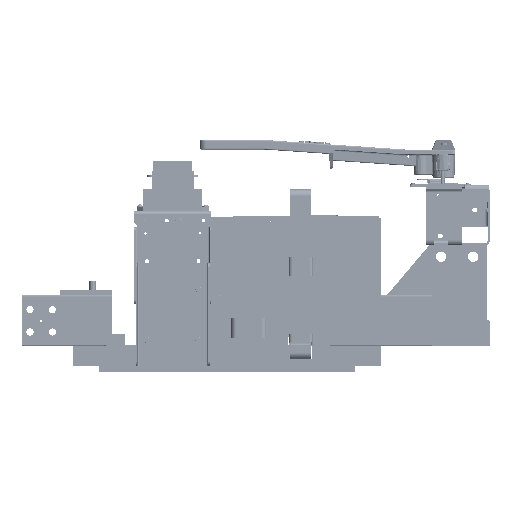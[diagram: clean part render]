
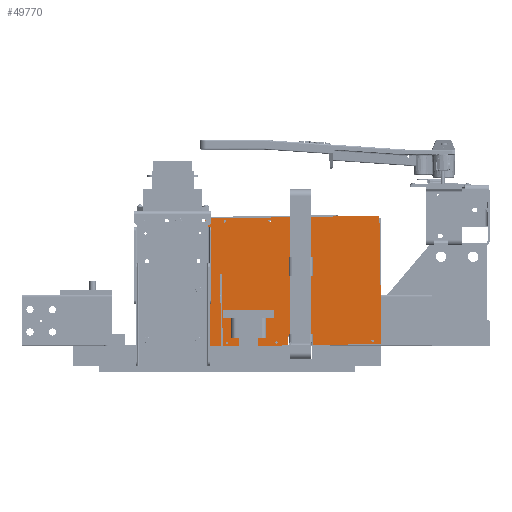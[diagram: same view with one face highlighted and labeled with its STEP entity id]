
A CAD part, left-side view. The second image highlights one B-rep face of the part: STEP entity #49770.
In plain terms, the highlighted planar face has unit normal (-1, 0, 0) as drawn and (0, 0, 1) by its records, which use the part's own axes.
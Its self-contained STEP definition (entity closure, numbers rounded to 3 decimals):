
#2412=FACE_BOUND('',#11273,.T.);
#2413=FACE_BOUND('',#11274,.T.);
#2414=FACE_BOUND('',#11275,.T.);
#2415=FACE_BOUND('',#11276,.T.);
#2416=FACE_BOUND('',#11277,.T.);
#4329=CIRCLE('',#55185,0.097);
#4331=CIRCLE('',#55188,0.097);
#4333=CIRCLE('',#55191,0.097);
#4335=CIRCLE('',#55194,0.097);
#4337=CIRCLE('',#55197,0.097);
#7775=FACE_OUTER_BOUND('',#11272,.T.);
#11272=EDGE_LOOP('',(#42135,#42136,#42137,#42138,#42139,#42140,#42141,#42142,
#42143,#42144,#42145,#42146));
#11273=EDGE_LOOP('',(#42147));
#11274=EDGE_LOOP('',(#42148));
#11275=EDGE_LOOP('',(#42149));
#11276=EDGE_LOOP('',(#42150));
#11277=EDGE_LOOP('',(#42151));
#15374=LINE('',#83466,#19571);
#15377=LINE('',#83472,#19574);
#15380=LINE('',#83478,#19577);
#15383=LINE('',#83484,#19580);
#15386=LINE('',#83490,#19583);
#15389=LINE('',#83496,#19586);
#15392=LINE('',#83502,#19589);
#15395=LINE('',#83508,#19592);
#15398=LINE('',#83514,#19595);
#15401=LINE('',#83520,#19598);
#15404=LINE('',#83526,#19601);
#15407=LINE('',#83530,#19604);
#19571=VECTOR('',#66868,0.394);
#19574=VECTOR('',#66873,0.394);
#19577=VECTOR('',#66878,0.394);
#19580=VECTOR('',#66883,0.394);
#19583=VECTOR('',#66888,0.394);
#19586=VECTOR('',#66893,0.394);
#19589=VECTOR('',#66898,0.394);
#19592=VECTOR('',#66903,0.394);
#19595=VECTOR('',#66908,0.394);
#19598=VECTOR('',#66913,0.394);
#19601=VECTOR('',#66918,0.394);
#19604=VECTOR('',#66923,0.394);
#23864=VERTEX_POINT('',#83432);
#23866=VERTEX_POINT('',#83438);
#23868=VERTEX_POINT('',#83444);
#23870=VERTEX_POINT('',#83450);
#23872=VERTEX_POINT('',#83456);
#23875=VERTEX_POINT('',#83463);
#23876=VERTEX_POINT('',#83465);
#23878=VERTEX_POINT('',#83471);
#23880=VERTEX_POINT('',#83477);
#23882=VERTEX_POINT('',#83483);
#23884=VERTEX_POINT('',#83489);
#23886=VERTEX_POINT('',#83495);
#23888=VERTEX_POINT('',#83501);
#23890=VERTEX_POINT('',#83507);
#23892=VERTEX_POINT('',#83513);
#23894=VERTEX_POINT('',#83519);
#23896=VERTEX_POINT('',#83525);
#30147=EDGE_CURVE('',#23864,#23864,#4329,.T.);
#30150=EDGE_CURVE('',#23866,#23866,#4331,.T.);
#30153=EDGE_CURVE('',#23868,#23868,#4333,.T.);
#30156=EDGE_CURVE('',#23870,#23870,#4335,.T.);
#30159=EDGE_CURVE('',#23872,#23872,#4337,.T.);
#30162=EDGE_CURVE('',#23876,#23875,#15374,.T.);
#30165=EDGE_CURVE('',#23878,#23876,#15377,.T.);
#30168=EDGE_CURVE('',#23880,#23878,#15380,.T.);
#30171=EDGE_CURVE('',#23882,#23880,#15383,.T.);
#30174=EDGE_CURVE('',#23884,#23882,#15386,.T.);
#30177=EDGE_CURVE('',#23886,#23884,#15389,.T.);
#30180=EDGE_CURVE('',#23888,#23886,#15392,.T.);
#30183=EDGE_CURVE('',#23890,#23888,#15395,.T.);
#30186=EDGE_CURVE('',#23892,#23890,#15398,.T.);
#30189=EDGE_CURVE('',#23894,#23892,#15401,.T.);
#30192=EDGE_CURVE('',#23896,#23894,#15404,.T.);
#30195=EDGE_CURVE('',#23875,#23896,#15407,.T.);
#42135=ORIENTED_EDGE('',*,*,#30195,.T.);
#42136=ORIENTED_EDGE('',*,*,#30192,.T.);
#42137=ORIENTED_EDGE('',*,*,#30189,.T.);
#42138=ORIENTED_EDGE('',*,*,#30186,.T.);
#42139=ORIENTED_EDGE('',*,*,#30183,.T.);
#42140=ORIENTED_EDGE('',*,*,#30180,.T.);
#42141=ORIENTED_EDGE('',*,*,#30177,.T.);
#42142=ORIENTED_EDGE('',*,*,#30174,.T.);
#42143=ORIENTED_EDGE('',*,*,#30171,.T.);
#42144=ORIENTED_EDGE('',*,*,#30168,.T.);
#42145=ORIENTED_EDGE('',*,*,#30165,.T.);
#42146=ORIENTED_EDGE('',*,*,#30162,.T.);
#42147=ORIENTED_EDGE('',*,*,#30147,.T.);
#42148=ORIENTED_EDGE('',*,*,#30150,.T.);
#42149=ORIENTED_EDGE('',*,*,#30153,.T.);
#42150=ORIENTED_EDGE('',*,*,#30156,.T.);
#42151=ORIENTED_EDGE('',*,*,#30159,.T.);
#47425=PLANE('',#55210);
#49770=ADVANCED_FACE('',(#7775,#2412,#2413,#2414,#2415,#2416),#47425,.T.);
#55185=AXIS2_PLACEMENT_3D('',#83434,#66834,#66835);
#55188=AXIS2_PLACEMENT_3D('',#83440,#66841,#66842);
#55191=AXIS2_PLACEMENT_3D('',#83446,#66848,#66849);
#55194=AXIS2_PLACEMENT_3D('',#83452,#66855,#66856);
#55197=AXIS2_PLACEMENT_3D('',#83458,#66862,#66863);
#55210=AXIS2_PLACEMENT_3D('',#83531,#66924,#66925);
#66834=DIRECTION('center_axis',(0.,0.,-1.));
#66835=DIRECTION('ref_axis',(-1.,0.,0.));
#66841=DIRECTION('center_axis',(0.,0.,-1.));
#66842=DIRECTION('ref_axis',(-1.,0.,0.));
#66848=DIRECTION('center_axis',(0.,0.,-1.));
#66849=DIRECTION('ref_axis',(-1.,0.,0.));
#66855=DIRECTION('center_axis',(0.,0.,-1.));
#66856=DIRECTION('ref_axis',(-1.,0.,0.));
#66862=DIRECTION('center_axis',(0.,0.,-1.));
#66863=DIRECTION('ref_axis',(-1.,0.,0.));
#66868=DIRECTION('',(1.,0.,0.));
#66873=DIRECTION('',(0.,-1.,0.));
#66878=DIRECTION('',(-1.,0.,0.));
#66883=DIRECTION('',(0.,1.,0.));
#66888=DIRECTION('',(1.,0.,0.));
#66893=DIRECTION('',(0.,-1.,0.));
#66898=DIRECTION('',(-1.,0.,0.));
#66903=DIRECTION('',(0.,-1.,0.));
#66908=DIRECTION('',(1.,0.,0.));
#66913=DIRECTION('',(0.,-1.,0.));
#66918=DIRECTION('',(-1.,0.,0.));
#66923=DIRECTION('',(0.,-1.,0.));
#66924=DIRECTION('center_axis',(0.,0.,1.));
#66925=DIRECTION('ref_axis',(1.,0.,0.));
#83432=CARTESIAN_POINT('',(0.347,12.063,0.125));
#83434=CARTESIAN_POINT('Origin',(0.25,12.063,0.125));
#83438=CARTESIAN_POINT('',(0.347,8.187,0.125));
#83440=CARTESIAN_POINT('Origin',(0.25,8.187,0.125));
#83444=CARTESIAN_POINT('',(0.347,0.688,0.125));
#83446=CARTESIAN_POINT('Origin',(0.25,0.688,0.125));
#83450=CARTESIAN_POINT('',(9.847,12.062,0.125));
#83452=CARTESIAN_POINT('Origin',(9.75,12.062,0.125));
#83456=CARTESIAN_POINT('',(9.847,8.562,0.125));
#83458=CARTESIAN_POINT('Origin',(9.75,8.562,0.125));
#83463=CARTESIAN_POINT('',(5.688,12.5,0.125));
#83465=CARTESIAN_POINT('',(0.,12.5,0.125));
#83466=CARTESIAN_POINT('',(0.,12.5,0.125));
#83471=CARTESIAN_POINT('',(0.,13.625,0.125));
#83472=CARTESIAN_POINT('',(0.,13.625,0.125));
#83477=CARTESIAN_POINT('',(10.,13.625,0.125));
#83478=CARTESIAN_POINT('',(10.,13.625,0.125));
#83483=CARTESIAN_POINT('',(10.,0.,0.125));
#83484=CARTESIAN_POINT('',(10.,0.,0.125));
#83489=CARTESIAN_POINT('',(0.,0.,0.125));
#83490=CARTESIAN_POINT('',(0.,0.,0.125));
#83495=CARTESIAN_POINT('',(0.,5.312,0.125));
#83496=CARTESIAN_POINT('',(0.,5.312,0.125));
#83501=CARTESIAN_POINT('',(0.75,5.312,0.125));
#83502=CARTESIAN_POINT('',(0.75,5.312,0.125));
#83507=CARTESIAN_POINT('',(0.75,7.25,0.125));
#83508=CARTESIAN_POINT('',(0.75,7.25,0.125));
#83513=CARTESIAN_POINT('',(0.,7.25,0.125));
#83514=CARTESIAN_POINT('',(0.,7.25,0.125));
#83519=CARTESIAN_POINT('',(0.,12.375,0.125));
#83520=CARTESIAN_POINT('',(0.,12.375,0.125));
#83525=CARTESIAN_POINT('',(5.688,12.375,0.125));
#83526=CARTESIAN_POINT('',(5.688,12.375,0.125));
#83530=CARTESIAN_POINT('',(5.688,12.5,0.125));
#83531=CARTESIAN_POINT('Origin',(4.513,7.864,0.125));
